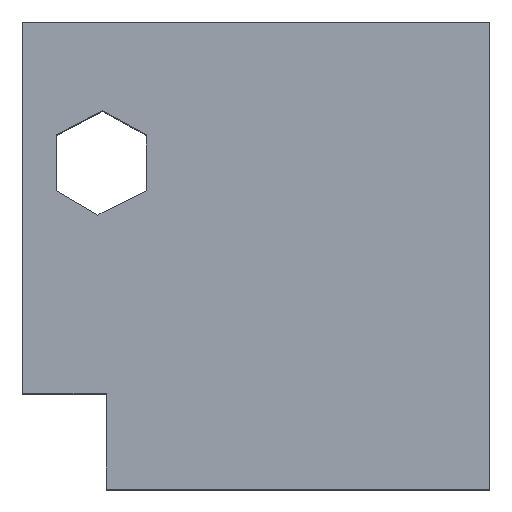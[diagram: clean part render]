
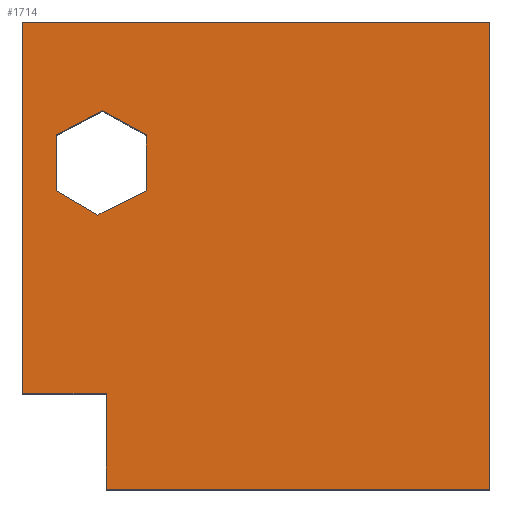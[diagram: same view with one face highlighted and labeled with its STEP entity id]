
A CAD part, top view. The second image highlights one B-rep face of the part: STEP entity #1714.
In plain terms, the highlighted planar face has unit normal (0, 0, 1).
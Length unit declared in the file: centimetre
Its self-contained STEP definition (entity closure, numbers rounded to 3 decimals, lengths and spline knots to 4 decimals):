
#5 = VERTEX_POINT ( 'NONE', #326 ) ;
#35 = CARTESIAN_POINT ( 'NONE',  ( 71.9623, 638.7026, 1000. ) ) ;
#47 = VERTEX_POINT ( 'NONE', #478 ) ;
#91 = VERTEX_POINT ( 'NONE', #397 ) ;
#94 = EDGE_CURVE ( 'NONE', #635, #1538, #221, .T. ) ;
#137 = VECTOR ( 'NONE', #614, 100. ) ;
#188 = CARTESIAN_POINT ( 'NONE',  ( 171.0463, 810.3211, 1000. ) ) ;
#207 = CARTESIAN_POINT ( 'NONE',  ( 179.758, 0., 1000. ) ) ;
#212 = CARTESIAN_POINT ( 'NONE',  ( 0., 1000., 1000. ) ) ;
#221 = LINE ( 'NONE', #506, #421 ) ;
#226 = LINE ( 'NONE', #212, #549 ) ;
#235 = FACE_BOUND ( 'NONE', #841, .T. ) ;
#266 = ORIENTED_EDGE ( 'NONE', *, *, #1063, .T. ) ;
#287 = EDGE_LOOP ( 'NONE', ( #1388, #584, #266, #662, #764, #1306 ) ) ;
#326 = CARTESIAN_POINT ( 'NONE',  ( 71.9623, 758.497, 1000. ) ) ;
#356 = EDGE_CURVE ( 'NONE', #1512, #5, #607, .T. ) ;
#377 = DIRECTION ( 'NONE',  ( -0.895, -0.447, 0. ) ) ;
#397 = CARTESIAN_POINT ( 'NONE',  ( 265.4693, 758.497, 1000. ) ) ;
#402 = VERTEX_POINT ( 'NONE', #188 ) ;
#415 = EDGE_CURVE ( 'NONE', #932, #853, #1590, .T. ) ;
#421 = VECTOR ( 'NONE', #377, 100. ) ;
#466 = EDGE_CURVE ( 'NONE', #1468, #853, #226, .T. ) ;
#478 = CARTESIAN_POINT ( 'NONE',  ( 1000., 0., 1000. ) ) ;
#492 = VECTOR ( 'NONE', #1251, 100. ) ;
#506 = CARTESIAN_POINT ( 'NONE',  ( 265.4693, 638.7026, 1000. ) ) ;
#512 = DIRECTION ( 'NONE',  ( 0., -1., 0. ) ) ;
#546 = ORIENTED_EDGE ( 'NONE', *, *, #1409, .T. ) ;
#549 = VECTOR ( 'NONE', #512, 100. ) ;
#559 = LINE ( 'NONE', #838, #1133 ) ;
#570 = DIRECTION ( 'NONE',  ( 0., 1., 0. ) ) ;
#582 = ORIENTED_EDGE ( 'NONE', *, *, #356, .T. ) ;
#584 = ORIENTED_EDGE ( 'NONE', *, *, #1542, .F. ) ;
#589 = LINE ( 'NONE', #1259, #713 ) ;
#607 = LINE ( 'NONE', #1011, #1374 ) ;
#614 = DIRECTION ( 'NONE',  ( 0., -1., 0. ) ) ;
#635 = VERTEX_POINT ( 'NONE', #692 ) ;
#639 = CARTESIAN_POINT ( 'NONE',  ( 161.7243, 586.8785, 1000. ) ) ;
#662 = ORIENTED_EDGE ( 'NONE', *, *, #1017, .T. ) ;
#671 = DIRECTION ( 'NONE',  ( -0.866, 0.5, 0. ) ) ;
#675 = DIRECTION ( 'NONE',  ( 0., 0., 1. ) ) ;
#680 = CARTESIAN_POINT ( 'NONE',  ( 179.758, 205.0536, 1000. ) ) ;
#692 = CARTESIAN_POINT ( 'NONE',  ( 265.4693, 638.7026, 1000. ) ) ;
#713 = VECTOR ( 'NONE', #570, 100. ) ;
#715 = DIRECTION ( 'NONE',  ( 0.877, -0.481, 0. ) ) ;
#752 = EDGE_CURVE ( 'NONE', #91, #635, #1713, .T. ) ;
#757 = CARTESIAN_POINT ( 'NONE',  ( 0., 205.0536, 1000. ) ) ;
#764 = ORIENTED_EDGE ( 'NONE', *, *, #1020, .T. ) ;
#833 = LINE ( 'NONE', #639, #1450 ) ;
#838 = CARTESIAN_POINT ( 'NONE',  ( 171.0463, 810.3211, 1000. ) ) ;
#839 = VECTOR ( 'NONE', #1747, 100. ) ;
#841 = EDGE_LOOP ( 'NONE', ( #582, #546, #1205, #1080, #1286, #1502 ) ) ;
#853 = VERTEX_POINT ( 'NONE', #757 ) ;
#903 = VECTOR ( 'NONE', #1394, 100. ) ;
#932 = VERTEX_POINT ( 'NONE', #680 ) ;
#951 = DIRECTION ( 'NONE',  ( 1., 0., 0. ) ) ;
#988 = LINE ( 'NONE', #1694, #492 ) ;
#995 = CARTESIAN_POINT ( 'NONE',  ( 71.9623, 758.497, 1000. ) ) ;
#996 = EDGE_CURVE ( 'NONE', #1538, #1512, #833, .T. ) ;
#999 = LINE ( 'NONE', #1702, #903 ) ;
#1011 = CARTESIAN_POINT ( 'NONE',  ( 71.9623, 638.7026, 1000. ) ) ;
#1016 = DIRECTION ( 'NONE',  ( 1., 0., 0. ) ) ;
#1017 = EDGE_CURVE ( 'NONE', #47, #1412, #999, .T. ) ;
#1020 = EDGE_CURVE ( 'NONE', #1412, #1468, #988, .T. ) ;
#1063 = EDGE_CURVE ( 'NONE', #1279, #47, #1145, .T. ) ;
#1073 = VECTOR ( 'NONE', #1016, 100. ) ;
#1080 = ORIENTED_EDGE ( 'NONE', *, *, #752, .T. ) ;
#1133 = VECTOR ( 'NONE', #715, 100. ) ;
#1145 = LINE ( 'NONE', #1544, #1073 ) ;
#1197 = CARTESIAN_POINT ( 'NONE',  ( 0., 205.0536, 1000. ) ) ;
#1205 = ORIENTED_EDGE ( 'NONE', *, *, #1444, .T. ) ;
#1217 = CARTESIAN_POINT ( 'NONE',  ( 0., 0., 1000. ) ) ;
#1249 = CARTESIAN_POINT ( 'NONE',  ( 0., 1000., 1000. ) ) ;
#1251 = DIRECTION ( 'NONE',  ( -1., 0., 0. ) ) ;
#1259 = CARTESIAN_POINT ( 'NONE',  ( 179.758, 0., 1000. ) ) ;
#1279 = VERTEX_POINT ( 'NONE', #207 ) ;
#1286 = ORIENTED_EDGE ( 'NONE', *, *, #94, .T. ) ;
#1306 = ORIENTED_EDGE ( 'NONE', *, *, #466, .T. ) ;
#1354 = VECTOR ( 'NONE', #1683, 100. ) ;
#1374 = VECTOR ( 'NONE', #1439, 100. ) ;
#1388 = ORIENTED_EDGE ( 'NONE', *, *, #415, .F. ) ;
#1394 = DIRECTION ( 'NONE',  ( 0., 1., 0. ) ) ;
#1408 = CARTESIAN_POINT ( 'NONE',  ( 161.7243, 586.8785, 1000. ) ) ;
#1409 = EDGE_CURVE ( 'NONE', #5, #402, #1551, .T. ) ;
#1412 = VERTEX_POINT ( 'NONE', #1663 ) ;
#1439 = DIRECTION ( 'NONE',  ( 0., 1., 0. ) ) ;
#1444 = EDGE_CURVE ( 'NONE', #402, #91, #559, .T. ) ;
#1450 = VECTOR ( 'NONE', #671, 100. ) ;
#1468 = VERTEX_POINT ( 'NONE', #1249 ) ;
#1502 = ORIENTED_EDGE ( 'NONE', *, *, #996, .T. ) ;
#1512 = VERTEX_POINT ( 'NONE', #35 ) ;
#1538 = VERTEX_POINT ( 'NONE', #1408 ) ;
#1542 = EDGE_CURVE ( 'NONE', #1279, #932, #589, .T. ) ;
#1544 = CARTESIAN_POINT ( 'NONE',  ( 0., 0., 1000. ) ) ;
#1551 = LINE ( 'NONE', #995, #1354 ) ;
#1572 = CARTESIAN_POINT ( 'NONE',  ( 265.4693, 758.497, 1000. ) ) ;
#1590 = LINE ( 'NONE', #1197, #839 ) ;
#1663 = CARTESIAN_POINT ( 'NONE',  ( 1000., 1000., 1000. ) ) ;
#1683 = DIRECTION ( 'NONE',  ( 0.886, 0.463, 0. ) ) ;
#1694 = CARTESIAN_POINT ( 'NONE',  ( 0., 1000., 1000. ) ) ;
#1702 = CARTESIAN_POINT ( 'NONE',  ( 1000., 1000., 1000. ) ) ;
#1713 = LINE ( 'NONE', #1572, #137 ) ;
#1714 = ADVANCED_FACE ( 'NONE', ( #235, #1769 ), #1779, .T. ) ;
#1747 = DIRECTION ( 'NONE',  ( -1., 0., 0. ) ) ;
#1748 = AXIS2_PLACEMENT_3D ( 'NONE', #1217, #675, #951 ) ;
#1769 = FACE_OUTER_BOUND ( 'NONE', #287, .T. ) ;
#1779 = PLANE ( 'NONE',  #1748 ) ;
